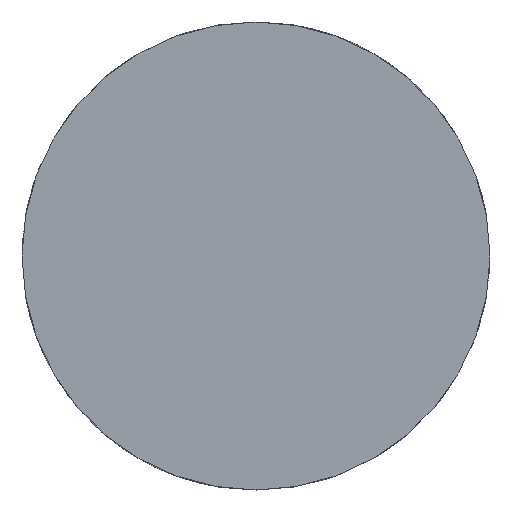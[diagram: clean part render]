
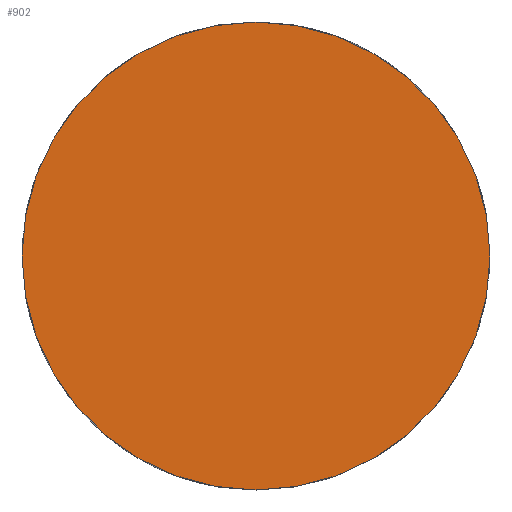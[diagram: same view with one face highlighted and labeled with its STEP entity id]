
A CAD part, front view. The second image highlights one B-rep face of the part: STEP entity #902.
In plain terms, the highlighted planar face has unit normal (0, -1, 0).
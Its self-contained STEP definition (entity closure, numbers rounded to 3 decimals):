
#185 = EDGE_CURVE ( 'NONE', #762, #1833, #875, .T. ) ;
#338 = DIRECTION ( 'NONE',  ( 0., 1., 0. ) ) ;
#358 = DIRECTION ( 'NONE',  ( 0., 0., 1. ) ) ;
#608 = CARTESIAN_POINT ( 'NONE',  ( 0., 0., 0. ) ) ;
#731 = CARTESIAN_POINT ( 'NONE',  ( 0., 0., -4.5 ) ) ;
#759 = AXIS2_PLACEMENT_3D ( 'NONE', #2519, #961, #358 ) ;
#762 = VERTEX_POINT ( 'NONE', #1163 ) ;
#875 = CIRCLE ( 'NONE', #2437, 4.5 ) ;
#902 = ADVANCED_FACE ( 'NONE', ( #1792 ), #1588, .F. ) ;
#961 = DIRECTION ( 'NONE',  ( 0., 1., 0. ) ) ;
#1163 = CARTESIAN_POINT ( 'NONE',  ( 0., 0., 4.5 ) ) ;
#1187 = AXIS2_PLACEMENT_3D ( 'NONE', #608, #1609, #1212 ) ;
#1212 = DIRECTION ( 'NONE',  ( 0., 0., 1. ) ) ;
#1320 = CIRCLE ( 'NONE', #759, 4.5 ) ;
#1426 = ORIENTED_EDGE ( 'NONE', *, *, #1666, .F. ) ;
#1588 = PLANE ( 'NONE',  #1187 ) ;
#1609 = DIRECTION ( 'NONE',  ( 0., 1., 0. ) ) ;
#1666 = EDGE_CURVE ( 'NONE', #1833, #762, #1320, .T. ) ;
#1792 = FACE_OUTER_BOUND ( 'NONE', #2410, .T. ) ;
#1833 = VERTEX_POINT ( 'NONE', #731 ) ;
#2107 = DIRECTION ( 'NONE',  ( 0., 0., 1. ) ) ;
#2402 = ORIENTED_EDGE ( 'NONE', *, *, #185, .F. ) ;
#2410 = EDGE_LOOP ( 'NONE', ( #1426, #2402 ) ) ;
#2437 = AXIS2_PLACEMENT_3D ( 'NONE', #2507, #338, #2107 ) ;
#2507 = CARTESIAN_POINT ( 'NONE',  ( 0., 0., 0. ) ) ;
#2519 = CARTESIAN_POINT ( 'NONE',  ( 0., 0., 0. ) ) ;
